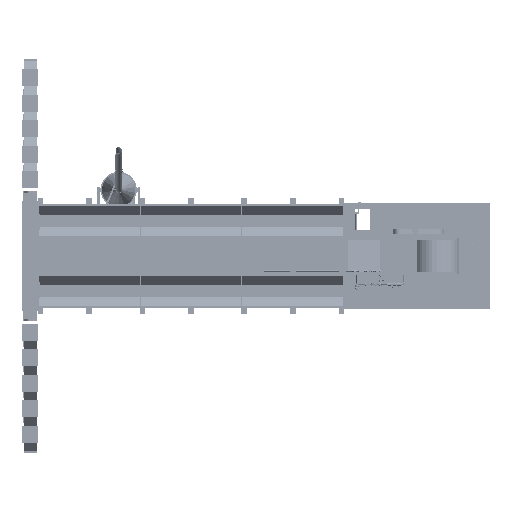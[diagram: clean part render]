
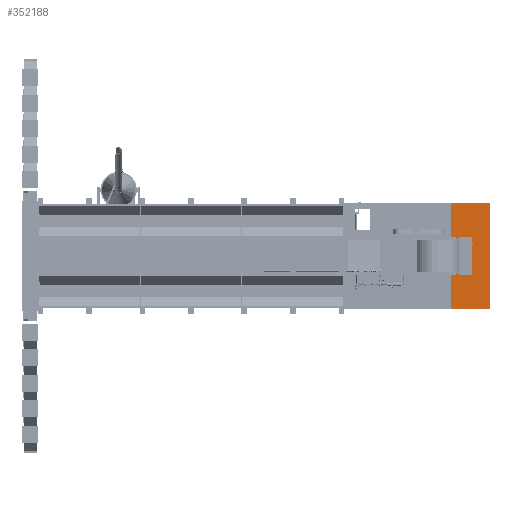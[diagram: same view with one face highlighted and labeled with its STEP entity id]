
A CAD part, front view. The second image highlights one B-rep face of the part: STEP entity #352188.
In plain terms, the highlighted planar face has unit normal (0, -1, 0) as drawn and (1, 0, 0) by its records, which use the part's own axes.
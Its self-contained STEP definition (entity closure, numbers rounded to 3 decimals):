
#63673=FACE_OUTER_BOUND('',#84430,.T.);
#84430=EDGE_LOOP('',(#307024,#307025,#307026,#307027));
#109180=LINE('',#802244,#138432);
#109216=LINE('',#802312,#138468);
#109228=LINE('',#802335,#138480);
#109229=LINE('',#802336,#138481);
#138432=VECTOR('',#457681,0.394);
#138468=VECTOR('',#457735,0.394);
#138480=VECTOR('',#457759,0.394);
#138481=VECTOR('',#457760,0.394);
#172276=VERTEX_POINT('',#802241);
#172277=VERTEX_POINT('',#802243);
#172300=VERTEX_POINT('',#802310);
#172305=VERTEX_POINT('',#802334);
#218311=EDGE_CURVE('',#172276,#172277,#109180,.T.);
#218347=EDGE_CURVE('',#172276,#172300,#109216,.T.);
#218359=EDGE_CURVE('',#172300,#172305,#109228,.T.);
#218360=EDGE_CURVE('',#172305,#172277,#109229,.T.);
#307024=ORIENTED_EDGE('',*,*,#218347,.T.);
#307025=ORIENTED_EDGE('',*,*,#218359,.T.);
#307026=ORIENTED_EDGE('',*,*,#218360,.T.);
#307027=ORIENTED_EDGE('',*,*,#218311,.F.);
#333858=PLANE('',#382569);
#352188=ADVANCED_FACE('',(#63673),#333858,.T.);
#382569=AXIS2_PLACEMENT_3D('',#802333,#457757,#457758);
#457681=DIRECTION('',(0.,0.,1.));
#457735=DIRECTION('',(0.,1.,0.));
#457757=DIRECTION('center_axis',(1.,0.,0.));
#457758=DIRECTION('ref_axis',(0.,0.,-1.));
#457759=DIRECTION('',(0.,0.,1.));
#457760=DIRECTION('',(0.,-1.,0.));
#802241=CARTESIAN_POINT('',(-0.125,-30.,101.063));
#802243=CARTESIAN_POINT('',(-0.125,-30.,137.75));
#802244=CARTESIAN_POINT('',(-0.125,-30.,0.));
#802310=CARTESIAN_POINT('',(-0.125,70.5,101.063));
#802312=CARTESIAN_POINT('',(-0.125,20.25,101.063));
#802333=CARTESIAN_POINT('Origin',(-0.125,70.5,0.));
#802334=CARTESIAN_POINT('',(-0.125,70.5,137.75));
#802335=CARTESIAN_POINT('',(-0.125,70.5,0.));
#802336=CARTESIAN_POINT('',(-0.125,-30.,137.75));
